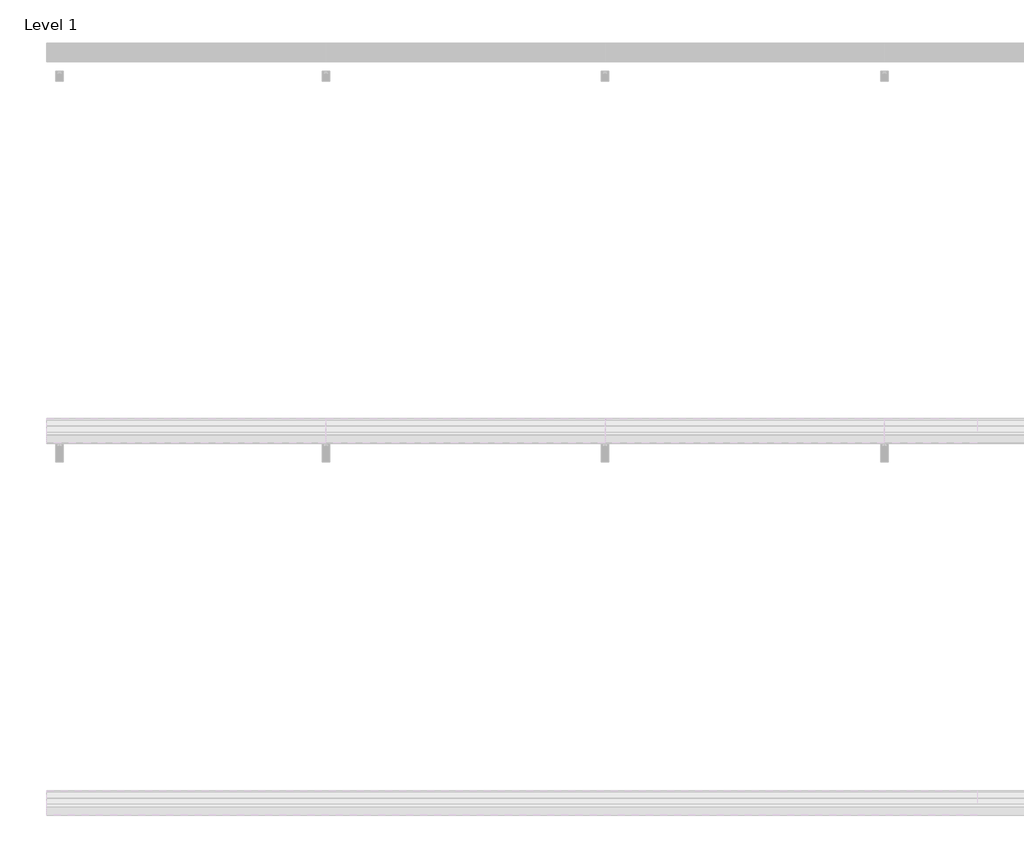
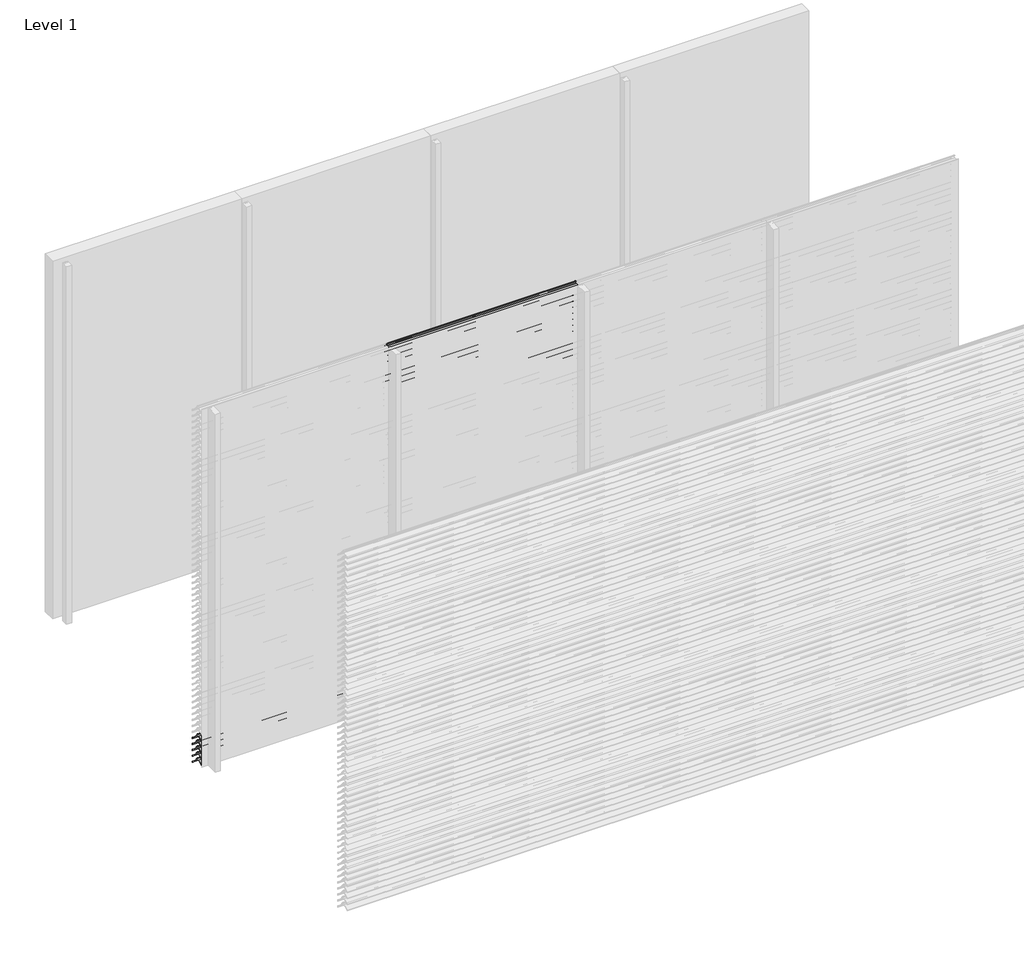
# One storey, part 61 of 173: 18 proxies.
"""IFC4 building model written with IfcOpenShell, lengths in millimetres."""

from ifc_helpers import new_model, si_unit, point, frame, frame_2d, origin, place, context, project, spatial, polyline, circle_curve, trimmed, segment, composite_curve, outline, extrude, element, save

model = new_model("IFC4")

# Units and contexts
model_context = context("Model", 3, world=origin())
ifc_project = project(units=[si_unit("LENGTHUNIT", "METRE", prefix="MILLI")], contexts=[model_context])

# Site, building, storey
site = spatial("IfcSite", under=ifc_project)
building = spatial("IfcBuilding", under=site)
storey = spatial("IfcBuildingStorey", under=building, Name="Level 1", Elevation=0.0)

# Proxies
placement = place(None, origin())
element("IfcBuildingElementProxy", 1, Name="Wall Sweeps", at=placement, inside=storey, context=model_context, shape_type="SweptSolid", body=[
    extrude(outline(composite_curve([segment(polyline([(-35998.0, 209.1474905), (-35998.0, 211.6227417)]), True, "CONTINUOUS"), segment(trimmed(circle_curve(frame_2d((-35951.2682172, 166.2200208)), 65.1557103), [point((-35998.0, 211.6227417))], [point((-35954.4014323, 231.3003524))], False, "CARTESIAN"), True, "CONTINUOUS"), segment(polyline([(-35954.4014323, 231.3003524), (-35934.8315836, 231.3003524)]), True, "CONTINUOUS"), segment(trimmed(circle_curve(frame_2d((-35732.7329489, 378.5533172)), 250.0545817), [point((-35934.8315836, 231.3003524))], [point((-35941.4452143, 240.8344583))], False, "CARTESIAN"), True, "CONTINUOUS"), segment(trimmed(circle_curve(frame_2d((-35953.2981792, 235.1737835)), 13.1352966), [point((-35941.4452143, 240.8344583))], [point((-35953.8171475, 248.298824))], True, "CARTESIAN"), True, "CONTINUOUS"), segment(polyline([(-35953.8171475, 248.298824), (-35953.8171475, 250.0)]), True, "CONTINUOUS"), segment(trimmed(circle_curve(frame_2d((-35953.2981792, 235.1737835)), 14.8352966), [point((-35953.8171475, 250.0))], [point((-35939.9637661, 241.6760487))], False, "CARTESIAN"), True, "CONTINUOUS"), segment(trimmed(circle_curve(frame_2d((-35732.7329489, 378.5533172)), 248.3545817), [point((-35939.9637661, 241.6760487))], [point((-35873.8787895, 174.2059416))], True, "CARTESIAN"), True, "CONTINUOUS"), segment(trimmed(circle_curve(frame_2d((-35883.8147537, 161.6649442)), 16.0), [point((-35873.8787895, 174.2059416))], [point((-35867.8648347, 160.4))], False, "CARTESIAN"), True, "CONTINUOUS"), segment(polyline([(-35867.8648347, 160.4), (-35869.6712069, 160.4)]), True, "CONTINUOUS"), segment(trimmed(circle_curve(frame_2d((-35883.8147537, 161.6649442)), 14.2), [point((-35869.6712069, 160.4))], [point((-35874.9518628, 172.7594998))], True, "CARTESIAN"), True, "CONTINUOUS"), segment(trimmed(circle_curve(frame_2d((-35732.7329489, 378.5533172)), 250.1545817), [point((-35874.9518628, 172.7594998))], [point((-35933.7064024, 229.6003524))], False, "CARTESIAN"), True, "CONTINUOUS"), segment(polyline([(-35933.7064024, 229.6003524), (-35954.3602632, 229.6003524)]), True, "CONTINUOUS"), segment(trimmed(circle_curve(frame_2d((-35951.2682172, 166.2200208)), 63.4557103), [point((-35954.3602632, 229.6003524))], [point((-35998.0, 209.1474905))], True, "CARTESIAN"), True, "CONTINUOUS")], self_intersect=False)), frame((0.0, 0.0, 0.0), z_axis=(1.0, 0.0, 0.0), x_axis=(0.0, 1.0, 0.0)), (0.0, 0.0, 1.0), 1500.0),
])
element("IfcBuildingElementProxy", 2, Name="Wall Sweeps", at=placement, inside=storey, context=model_context, shape_type="SweptSolid", body=[
    extrude(outline(composite_curve([segment(polyline([(-35998.0, 159.1474905), (-35998.0, 161.6227417)]), True, "CONTINUOUS"), segment(trimmed(circle_curve(frame_2d((-35951.2682172, 116.2200208)), 65.1557103), [point((-35998.0, 161.6227417))], [point((-35954.4014323, 181.3003524))], False, "CARTESIAN"), True, "CONTINUOUS"), segment(polyline([(-35954.4014323, 181.3003524), (-35934.8315836, 181.3003524)]), True, "CONTINUOUS"), segment(trimmed(circle_curve(frame_2d((-35732.7329489, 328.5533172)), 250.0545817), [point((-35934.8315836, 181.3003524))], [point((-35941.4452143, 190.8344583))], False, "CARTESIAN"), True, "CONTINUOUS"), segment(trimmed(circle_curve(frame_2d((-35953.2981792, 185.1737835)), 13.1352966), [point((-35941.4452143, 190.8344583))], [point((-35953.8171475, 198.298824))], True, "CARTESIAN"), True, "CONTINUOUS"), segment(polyline([(-35953.8171475, 198.298824), (-35953.8171475, 200.0)]), True, "CONTINUOUS"), segment(trimmed(circle_curve(frame_2d((-35953.2981792, 185.1737835)), 14.8352966), [point((-35953.8171475, 200.0))], [point((-35939.9637661, 191.6760487))], False, "CARTESIAN"), True, "CONTINUOUS"), segment(trimmed(circle_curve(frame_2d((-35732.7329489, 328.5533172)), 248.3545817), [point((-35939.9637661, 191.6760487))], [point((-35873.8787895, 124.2059416))], True, "CARTESIAN"), True, "CONTINUOUS"), segment(trimmed(circle_curve(frame_2d((-35883.8147537, 111.6649442)), 16.0), [point((-35873.8787895, 124.2059416))], [point((-35867.8648347, 110.4))], False, "CARTESIAN"), True, "CONTINUOUS"), segment(polyline([(-35867.8648347, 110.4), (-35869.6712069, 110.4)]), True, "CONTINUOUS"), segment(trimmed(circle_curve(frame_2d((-35883.8147537, 111.6649442)), 14.2), [point((-35869.6712069, 110.4))], [point((-35874.9518628, 122.7594998))], True, "CARTESIAN"), True, "CONTINUOUS"), segment(trimmed(circle_curve(frame_2d((-35732.7329489, 328.5533172)), 250.1545817), [point((-35874.9518628, 122.7594998))], [point((-35933.7064024, 179.6003524))], False, "CARTESIAN"), True, "CONTINUOUS"), segment(polyline([(-35933.7064024, 179.6003524), (-35954.3602632, 179.6003524)]), True, "CONTINUOUS"), segment(trimmed(circle_curve(frame_2d((-35951.2682172, 116.2200208)), 63.4557103), [point((-35954.3602632, 179.6003524))], [point((-35998.0, 159.1474905))], True, "CARTESIAN"), True, "CONTINUOUS")], self_intersect=False)), frame((0.0, 0.0, 0.0), z_axis=(1.0, 0.0, 0.0), x_axis=(0.0, 1.0, 0.0)), (0.0, 0.0, 1.0), 1500.0),
])
element("IfcBuildingElementProxy", 3, Name="Wall Sweeps", at=placement, inside=storey, context=model_context, shape_type="SweptSolid", body=[
    extrude(outline(composite_curve([segment(polyline([(-35998.0, 109.1474905), (-35998.0, 111.6227417)]), True, "CONTINUOUS"), segment(trimmed(circle_curve(frame_2d((-35951.2682172, 66.2200208)), 65.1557103), [point((-35998.0, 111.6227417))], [point((-35954.4014323, 131.3003524))], False, "CARTESIAN"), True, "CONTINUOUS"), segment(polyline([(-35954.4014323, 131.3003524), (-35934.8315836, 131.3003524)]), True, "CONTINUOUS"), segment(trimmed(circle_curve(frame_2d((-35732.7329489, 278.5533172)), 250.0545817), [point((-35934.8315836, 131.3003524))], [point((-35941.4452143, 140.8344583))], False, "CARTESIAN"), True, "CONTINUOUS"), segment(trimmed(circle_curve(frame_2d((-35953.2981792, 135.1737835)), 13.1352966), [point((-35941.4452143, 140.8344583))], [point((-35953.8171475, 148.298824))], True, "CARTESIAN"), True, "CONTINUOUS"), segment(polyline([(-35953.8171475, 148.298824), (-35953.8171475, 150.0)]), True, "CONTINUOUS"), segment(trimmed(circle_curve(frame_2d((-35953.2981792, 135.1737835)), 14.8352966), [point((-35953.8171475, 150.0))], [point((-35939.9637661, 141.6760487))], False, "CARTESIAN"), True, "CONTINUOUS"), segment(trimmed(circle_curve(frame_2d((-35732.7329489, 278.5533172)), 248.3545817), [point((-35939.9637661, 141.6760487))], [point((-35873.8787895, 74.2059416))], True, "CARTESIAN"), True, "CONTINUOUS"), segment(trimmed(circle_curve(frame_2d((-35883.8147537, 61.6649442)), 16.0), [point((-35873.8787895, 74.2059416))], [point((-35867.8648347, 60.4))], False, "CARTESIAN"), True, "CONTINUOUS"), segment(polyline([(-35867.8648347, 60.4), (-35869.6712069, 60.4)]), True, "CONTINUOUS"), segment(trimmed(circle_curve(frame_2d((-35883.8147537, 61.6649442)), 14.2), [point((-35869.6712069, 60.4))], [point((-35874.9518628, 72.7594998))], True, "CARTESIAN"), True, "CONTINUOUS"), segment(trimmed(circle_curve(frame_2d((-35732.7329489, 278.5533172)), 250.1545817), [point((-35874.9518628, 72.7594998))], [point((-35933.7064024, 129.6003524))], False, "CARTESIAN"), True, "CONTINUOUS"), segment(polyline([(-35933.7064024, 129.6003524), (-35954.3602632, 129.6003524)]), True, "CONTINUOUS"), segment(trimmed(circle_curve(frame_2d((-35951.2682172, 66.2200208)), 63.4557103), [point((-35954.3602632, 129.6003524))], [point((-35998.0, 109.1474905))], True, "CARTESIAN"), True, "CONTINUOUS")], self_intersect=False)), frame((0.0, 0.0, 0.0), z_axis=(1.0, 0.0, 0.0), x_axis=(0.0, 1.0, 0.0)), (0.0, 0.0, 1.0), 1500.0),
])
element("IfcBuildingElementProxy", 4, Name="Wall Sweeps", at=placement, inside=storey, context=model_context, shape_type="SweptSolid", body=[
    extrude(outline(composite_curve([segment(polyline([(-35998.0, 59.1474905), (-35998.0, 61.6227417)]), True, "CONTINUOUS"), segment(trimmed(circle_curve(frame_2d((-35951.2682172, 16.2200208)), 65.1557103), [point((-35998.0, 61.6227417))], [point((-35954.4014323, 81.3003524))], False, "CARTESIAN"), True, "CONTINUOUS"), segment(polyline([(-35954.4014323, 81.3003524), (-35934.8315836, 81.3003524)]), True, "CONTINUOUS"), segment(trimmed(circle_curve(frame_2d((-35732.7329489, 228.5533172)), 250.0545817), [point((-35934.8315836, 81.3003524))], [point((-35941.4452143, 90.8344583))], False, "CARTESIAN"), True, "CONTINUOUS"), segment(trimmed(circle_curve(frame_2d((-35953.2981792, 85.1737835)), 13.1352966), [point((-35941.4452143, 90.8344583))], [point((-35953.8171475, 98.298824))], True, "CARTESIAN"), True, "CONTINUOUS"), segment(polyline([(-35953.8171475, 98.298824), (-35953.8171475, 100.0)]), True, "CONTINUOUS"), segment(trimmed(circle_curve(frame_2d((-35953.2981792, 85.1737835)), 14.8352966), [point((-35953.8171475, 100.0))], [point((-35939.9637661, 91.6760487))], False, "CARTESIAN"), True, "CONTINUOUS"), segment(trimmed(circle_curve(frame_2d((-35732.7329489, 228.5533172)), 248.3545817), [point((-35939.9637661, 91.6760487))], [point((-35873.8787895, 24.2059416))], True, "CARTESIAN"), True, "CONTINUOUS"), segment(trimmed(circle_curve(frame_2d((-35883.8147537, 11.6649442)), 16.0), [point((-35873.8787895, 24.2059416))], [point((-35867.8648347, 10.4))], False, "CARTESIAN"), True, "CONTINUOUS"), segment(polyline([(-35867.8648347, 10.4), (-35869.6712069, 10.4)]), True, "CONTINUOUS"), segment(trimmed(circle_curve(frame_2d((-35883.8147537, 11.6649442)), 14.2), [point((-35869.6712069, 10.4))], [point((-35874.9518628, 22.7594998))], True, "CARTESIAN"), True, "CONTINUOUS"), segment(trimmed(circle_curve(frame_2d((-35732.7329489, 228.5533172)), 250.1545817), [point((-35874.9518628, 22.7594998))], [point((-35933.7064024, 79.6003524))], False, "CARTESIAN"), True, "CONTINUOUS"), segment(polyline([(-35933.7064024, 79.6003524), (-35954.3602632, 79.6003524)]), True, "CONTINUOUS"), segment(trimmed(circle_curve(frame_2d((-35951.2682172, 16.2200208)), 63.4557103), [point((-35954.3602632, 79.6003524))], [point((-35998.0, 59.1474905))], True, "CARTESIAN"), True, "CONTINUOUS")], self_intersect=False)), frame((0.0, 0.0, 0.0), z_axis=(1.0, 0.0, 0.0), x_axis=(0.0, 1.0, 0.0)), (0.0, 0.0, 1.0), 1500.0),
])
element("IfcBuildingElementProxy", 5, Name="Wall Sweeps", at=placement, inside=storey, context=model_context, shape_type="SweptSolid", body=[
    extrude(outline(composite_curve([segment(polyline([(-35998.0, 9.1474905), (-35998.0, 11.6227417)]), True, "CONTINUOUS"), segment(trimmed(circle_curve(frame_2d((-35951.2682172, -33.7799792)), 65.1557103), [point((-35998.0, 11.6227417))], [point((-35954.4014323, 31.3003524))], False, "CARTESIAN"), True, "CONTINUOUS"), segment(polyline([(-35954.4014323, 31.3003524), (-35934.8315836, 31.3003524)]), True, "CONTINUOUS"), segment(trimmed(circle_curve(frame_2d((-35732.7329489, 178.5533172)), 250.0545817), [point((-35934.8315836, 31.3003524))], [point((-35941.4452143, 40.8344583))], False, "CARTESIAN"), True, "CONTINUOUS"), segment(trimmed(circle_curve(frame_2d((-35953.2981792, 35.1737835)), 13.1352966), [point((-35941.4452143, 40.8344583))], [point((-35953.8171475, 48.298824))], True, "CARTESIAN"), True, "CONTINUOUS"), segment(polyline([(-35953.8171475, 48.298824), (-35953.8171475, 50.0)]), True, "CONTINUOUS"), segment(trimmed(circle_curve(frame_2d((-35953.2981792, 35.1737835)), 14.8352966), [point((-35953.8171475, 50.0))], [point((-35939.9637661, 41.6760487))], False, "CARTESIAN"), True, "CONTINUOUS"), segment(trimmed(circle_curve(frame_2d((-35732.7329489, 178.5533172)), 248.3545817), [point((-35939.9637661, 41.6760487))], [point((-35873.8787895, -25.7940584))], True, "CARTESIAN"), True, "CONTINUOUS"), segment(trimmed(circle_curve(frame_2d((-35883.8147537, -38.3350558)), 16.0), [point((-35873.8787895, -25.7940584))], [point((-35867.8648347, -39.6))], False, "CARTESIAN"), True, "CONTINUOUS"), segment(polyline([(-35867.8648347, -39.6), (-35869.6712069, -39.6)]), True, "CONTINUOUS"), segment(trimmed(circle_curve(frame_2d((-35883.8147537, -38.3350558)), 14.2), [point((-35869.6712069, -39.6))], [point((-35874.9518628, -27.2405002))], True, "CARTESIAN"), True, "CONTINUOUS"), segment(trimmed(circle_curve(frame_2d((-35732.7329489, 178.5533172)), 250.1545817), [point((-35874.9518628, -27.2405002))], [point((-35933.7064024, 29.6003524))], False, "CARTESIAN"), True, "CONTINUOUS"), segment(polyline([(-35933.7064024, 29.6003524), (-35954.3602632, 29.6003524)]), True, "CONTINUOUS"), segment(trimmed(circle_curve(frame_2d((-35951.2682172, -33.7799792)), 63.4557103), [point((-35954.3602632, 29.6003524))], [point((-35998.0, 9.1474905))], True, "CARTESIAN"), True, "CONTINUOUS")], self_intersect=False)), frame((0.0, 0.0, 0.0), z_axis=(1.0, 0.0, 0.0), x_axis=(0.0, 1.0, 0.0)), (0.0, 0.0, 1.0), 1500.0),
])
element("IfcBuildingElementProxy", 6, Name="Wall Sweeps", at=placement, inside=storey, context=model_context, shape_type="SweptSolid", body=[
    extrude(outline(composite_curve([segment(polyline([(-35998.0, 2959.1474905), (-35998.0, 2961.6227417)]), True, "CONTINUOUS"), segment(trimmed(circle_curve(frame_2d((-35951.2682172, 2916.2200208)), 65.1557103), [point((-35998.0, 2961.6227417))], [point((-35954.4014323, 2981.3003524))], False, "CARTESIAN"), True, "CONTINUOUS"), segment(polyline([(-35954.4014323, 2981.3003524), (-35934.8315836, 2981.3003524)]), True, "CONTINUOUS"), segment(trimmed(circle_curve(frame_2d((-35732.7329489, 3128.5533172)), 250.0545817), [point((-35934.8315836, 2981.3003524))], [point((-35941.4452143, 2990.8344583))], False, "CARTESIAN"), True, "CONTINUOUS"), segment(trimmed(circle_curve(frame_2d((-35953.2981792, 2985.1737835)), 13.1352966), [point((-35941.4452143, 2990.8344583))], [point((-35953.8171475, 2998.298824))], True, "CARTESIAN"), True, "CONTINUOUS"), segment(polyline([(-35953.8171475, 2998.298824), (-35953.8171475, 3000.0)]), True, "CONTINUOUS"), segment(trimmed(circle_curve(frame_2d((-35953.2981792, 2985.1737835)), 14.8352966), [point((-35953.8171475, 3000.0))], [point((-35939.9637661, 2991.6760487))], False, "CARTESIAN"), True, "CONTINUOUS"), segment(trimmed(circle_curve(frame_2d((-35732.7329489, 3128.5533172)), 248.3545817), [point((-35939.9637661, 2991.6760487))], [point((-35873.8787895, 2924.2059416))], True, "CARTESIAN"), True, "CONTINUOUS"), segment(trimmed(circle_curve(frame_2d((-35883.8147537, 2911.6649442)), 16.0), [point((-35873.8787895, 2924.2059416))], [point((-35867.8648347, 2910.4))], False, "CARTESIAN"), True, "CONTINUOUS"), segment(polyline([(-35867.8648347, 2910.4), (-35869.6712069, 2910.4)]), True, "CONTINUOUS"), segment(trimmed(circle_curve(frame_2d((-35883.8147537, 2911.6649442)), 14.2), [point((-35869.6712069, 2910.4))], [point((-35874.9518628, 2922.7594998))], True, "CARTESIAN"), True, "CONTINUOUS"), segment(trimmed(circle_curve(frame_2d((-35732.7329489, 3128.5533172)), 250.1545817), [point((-35874.9518628, 2922.7594998))], [point((-35933.7064024, 2979.6003524))], False, "CARTESIAN"), True, "CONTINUOUS"), segment(polyline([(-35933.7064024, 2979.6003524), (-35954.3602632, 2979.6003524)]), True, "CONTINUOUS"), segment(trimmed(circle_curve(frame_2d((-35951.2682172, 2916.2200208)), 63.4557103), [point((-35954.3602632, 2979.6003524))], [point((-35998.0, 2959.1474905))], True, "CARTESIAN"), True, "CONTINUOUS")], self_intersect=False)), frame((1500.0, 0.0, 0.0), z_axis=(1.0, 0.0, 0.0), x_axis=(0.0, 1.0, 0.0)), (0.0, 0.0, 1.0), 1500.0),
])
element("IfcBuildingElementProxy", 7, Name="Wall Sweeps", at=placement, inside=storey, context=model_context, shape_type="SweptSolid", body=[
    extrude(outline(composite_curve([segment(polyline([(-35998.0, 2909.1474905), (-35998.0, 2911.6227417)]), True, "CONTINUOUS"), segment(trimmed(circle_curve(frame_2d((-35951.2682172, 2866.2200208)), 65.1557103), [point((-35998.0, 2911.6227417))], [point((-35954.4014323, 2931.3003524))], False, "CARTESIAN"), True, "CONTINUOUS"), segment(polyline([(-35954.4014323, 2931.3003524), (-35934.8315836, 2931.3003524)]), True, "CONTINUOUS"), segment(trimmed(circle_curve(frame_2d((-35732.7329489, 3078.5533172)), 250.0545817), [point((-35934.8315836, 2931.3003524))], [point((-35941.4452143, 2940.8344583))], False, "CARTESIAN"), True, "CONTINUOUS"), segment(trimmed(circle_curve(frame_2d((-35953.2981792, 2935.1737835)), 13.1352966), [point((-35941.4452143, 2940.8344583))], [point((-35953.8171475, 2948.298824))], True, "CARTESIAN"), True, "CONTINUOUS"), segment(polyline([(-35953.8171475, 2948.298824), (-35953.8171475, 2950.0)]), True, "CONTINUOUS"), segment(trimmed(circle_curve(frame_2d((-35953.2981792, 2935.1737835)), 14.8352966), [point((-35953.8171475, 2950.0))], [point((-35939.9637661, 2941.6760487))], False, "CARTESIAN"), True, "CONTINUOUS"), segment(trimmed(circle_curve(frame_2d((-35732.7329489, 3078.5533172)), 248.3545817), [point((-35939.9637661, 2941.6760487))], [point((-35873.8787895, 2874.2059416))], True, "CARTESIAN"), True, "CONTINUOUS"), segment(trimmed(circle_curve(frame_2d((-35883.8147537, 2861.6649442)), 16.0), [point((-35873.8787895, 2874.2059416))], [point((-35867.8648347, 2860.4))], False, "CARTESIAN"), True, "CONTINUOUS"), segment(polyline([(-35867.8648347, 2860.4), (-35869.6712069, 2860.4)]), True, "CONTINUOUS"), segment(trimmed(circle_curve(frame_2d((-35883.8147537, 2861.6649442)), 14.2), [point((-35869.6712069, 2860.4))], [point((-35874.9518628, 2872.7594998))], True, "CARTESIAN"), True, "CONTINUOUS"), segment(trimmed(circle_curve(frame_2d((-35732.7329489, 3078.5533172)), 250.1545817), [point((-35874.9518628, 2872.7594998))], [point((-35933.7064024, 2929.6003524))], False, "CARTESIAN"), True, "CONTINUOUS"), segment(polyline([(-35933.7064024, 2929.6003524), (-35954.3602632, 2929.6003524)]), True, "CONTINUOUS"), segment(trimmed(circle_curve(frame_2d((-35951.2682172, 2866.2200208)), 63.4557103), [point((-35954.3602632, 2929.6003524))], [point((-35998.0, 2909.1474905))], True, "CARTESIAN"), True, "CONTINUOUS")], self_intersect=False)), frame((1500.0, 0.0, 0.0), z_axis=(1.0, 0.0, 0.0), x_axis=(0.0, 1.0, 0.0)), (0.0, 0.0, 1.0), 1500.0),
])
element("IfcBuildingElementProxy", 8, Name="Wall Sweeps", at=placement, inside=storey, context=model_context, shape_type="SweptSolid", body=[
    extrude(outline(composite_curve([segment(polyline([(-35998.0, 2859.1474905), (-35998.0, 2861.6227417)]), True, "CONTINUOUS"), segment(trimmed(circle_curve(frame_2d((-35951.2682172, 2816.2200208)), 65.1557103), [point((-35998.0, 2861.6227417))], [point((-35954.4014323, 2881.3003524))], False, "CARTESIAN"), True, "CONTINUOUS"), segment(polyline([(-35954.4014323, 2881.3003524), (-35934.8315836, 2881.3003524)]), True, "CONTINUOUS"), segment(trimmed(circle_curve(frame_2d((-35732.7329489, 3028.5533172)), 250.0545817), [point((-35934.8315836, 2881.3003524))], [point((-35941.4452143, 2890.8344583))], False, "CARTESIAN"), True, "CONTINUOUS"), segment(trimmed(circle_curve(frame_2d((-35953.2981792, 2885.1737835)), 13.1352966), [point((-35941.4452143, 2890.8344583))], [point((-35953.8171475, 2898.298824))], True, "CARTESIAN"), True, "CONTINUOUS"), segment(polyline([(-35953.8171475, 2898.298824), (-35953.8171475, 2900.0)]), True, "CONTINUOUS"), segment(trimmed(circle_curve(frame_2d((-35953.2981792, 2885.1737835)), 14.8352966), [point((-35953.8171475, 2900.0))], [point((-35939.9637661, 2891.6760487))], False, "CARTESIAN"), True, "CONTINUOUS"), segment(trimmed(circle_curve(frame_2d((-35732.7329489, 3028.5533172)), 248.3545817), [point((-35939.9637661, 2891.6760487))], [point((-35873.8787895, 2824.2059416))], True, "CARTESIAN"), True, "CONTINUOUS"), segment(trimmed(circle_curve(frame_2d((-35883.8147537, 2811.6649442)), 16.0), [point((-35873.8787895, 2824.2059416))], [point((-35867.8648347, 2810.4))], False, "CARTESIAN"), True, "CONTINUOUS"), segment(polyline([(-35867.8648347, 2810.4), (-35869.6712069, 2810.4)]), True, "CONTINUOUS"), segment(trimmed(circle_curve(frame_2d((-35883.8147537, 2811.6649442)), 14.2), [point((-35869.6712069, 2810.4))], [point((-35874.9518628, 2822.7594998))], True, "CARTESIAN"), True, "CONTINUOUS"), segment(trimmed(circle_curve(frame_2d((-35732.7329489, 3028.5533172)), 250.1545817), [point((-35874.9518628, 2822.7594998))], [point((-35933.7064024, 2879.6003524))], False, "CARTESIAN"), True, "CONTINUOUS"), segment(polyline([(-35933.7064024, 2879.6003524), (-35954.3602632, 2879.6003524)]), True, "CONTINUOUS"), segment(trimmed(circle_curve(frame_2d((-35951.2682172, 2816.2200208)), 63.4557103), [point((-35954.3602632, 2879.6003524))], [point((-35998.0, 2859.1474905))], True, "CARTESIAN"), True, "CONTINUOUS")], self_intersect=False)), frame((1500.0, 0.0, 0.0), z_axis=(1.0, 0.0, 0.0), x_axis=(0.0, 1.0, 0.0)), (0.0, 0.0, 1.0), 1500.0),
])
element("IfcBuildingElementProxy", 9, Name="Wall Sweeps", at=placement, inside=storey, context=model_context, shape_type="SweptSolid", body=[
    extrude(outline(composite_curve([segment(polyline([(-35998.0, 2809.1474905), (-35998.0, 2811.6227417)]), True, "CONTINUOUS"), segment(trimmed(circle_curve(frame_2d((-35951.2682172, 2766.2200208)), 65.1557103), [point((-35998.0, 2811.6227417))], [point((-35954.4014323, 2831.3003524))], False, "CARTESIAN"), True, "CONTINUOUS"), segment(polyline([(-35954.4014323, 2831.3003524), (-35934.8315836, 2831.3003524)]), True, "CONTINUOUS"), segment(trimmed(circle_curve(frame_2d((-35732.7329489, 2978.5533172)), 250.0545817), [point((-35934.8315836, 2831.3003524))], [point((-35941.4452143, 2840.8344583))], False, "CARTESIAN"), True, "CONTINUOUS"), segment(trimmed(circle_curve(frame_2d((-35953.2981792, 2835.1737835)), 13.1352966), [point((-35941.4452143, 2840.8344583))], [point((-35953.8171475, 2848.298824))], True, "CARTESIAN"), True, "CONTINUOUS"), segment(polyline([(-35953.8171475, 2848.298824), (-35953.8171475, 2850.0)]), True, "CONTINUOUS"), segment(trimmed(circle_curve(frame_2d((-35953.2981792, 2835.1737835)), 14.8352966), [point((-35953.8171475, 2850.0))], [point((-35939.9637661, 2841.6760487))], False, "CARTESIAN"), True, "CONTINUOUS"), segment(trimmed(circle_curve(frame_2d((-35732.7329489, 2978.5533172)), 248.3545817), [point((-35939.9637661, 2841.6760487))], [point((-35873.8787895, 2774.2059416))], True, "CARTESIAN"), True, "CONTINUOUS"), segment(trimmed(circle_curve(frame_2d((-35883.8147537, 2761.6649442)), 16.0), [point((-35873.8787895, 2774.2059416))], [point((-35867.8648347, 2760.4))], False, "CARTESIAN"), True, "CONTINUOUS"), segment(polyline([(-35867.8648347, 2760.4), (-35869.6712069, 2760.4)]), True, "CONTINUOUS"), segment(trimmed(circle_curve(frame_2d((-35883.8147537, 2761.6649442)), 14.2), [point((-35869.6712069, 2760.4))], [point((-35874.9518628, 2772.7594998))], True, "CARTESIAN"), True, "CONTINUOUS"), segment(trimmed(circle_curve(frame_2d((-35732.7329489, 2978.5533172)), 250.1545817), [point((-35874.9518628, 2772.7594998))], [point((-35933.7064024, 2829.6003524))], False, "CARTESIAN"), True, "CONTINUOUS"), segment(polyline([(-35933.7064024, 2829.6003524), (-35954.3602632, 2829.6003524)]), True, "CONTINUOUS"), segment(trimmed(circle_curve(frame_2d((-35951.2682172, 2766.2200208)), 63.4557103), [point((-35954.3602632, 2829.6003524))], [point((-35998.0, 2809.1474905))], True, "CARTESIAN"), True, "CONTINUOUS")], self_intersect=False)), frame((1500.0, 0.0, 0.0), z_axis=(1.0, 0.0, 0.0), x_axis=(0.0, 1.0, 0.0)), (0.0, 0.0, 1.0), 1500.0),
])
element("IfcBuildingElementProxy", 10, Name="Wall Sweeps", at=placement, inside=storey, context=model_context, shape_type="SweptSolid", body=[
    extrude(outline(composite_curve([segment(polyline([(-35998.0, 2759.1474905), (-35998.0, 2761.6227417)]), True, "CONTINUOUS"), segment(trimmed(circle_curve(frame_2d((-35951.2682172, 2716.2200208)), 65.1557103), [point((-35998.0, 2761.6227417))], [point((-35954.4014323, 2781.3003524))], False, "CARTESIAN"), True, "CONTINUOUS"), segment(polyline([(-35954.4014323, 2781.3003524), (-35934.8315836, 2781.3003524)]), True, "CONTINUOUS"), segment(trimmed(circle_curve(frame_2d((-35732.7329489, 2928.5533172)), 250.0545817), [point((-35934.8315836, 2781.3003524))], [point((-35941.4452143, 2790.8344583))], False, "CARTESIAN"), True, "CONTINUOUS"), segment(trimmed(circle_curve(frame_2d((-35953.2981792, 2785.1737835)), 13.1352966), [point((-35941.4452143, 2790.8344583))], [point((-35953.8171475, 2798.298824))], True, "CARTESIAN"), True, "CONTINUOUS"), segment(polyline([(-35953.8171475, 2798.298824), (-35953.8171475, 2800.0)]), True, "CONTINUOUS"), segment(trimmed(circle_curve(frame_2d((-35953.2981792, 2785.1737835)), 14.8352966), [point((-35953.8171475, 2800.0))], [point((-35939.9637661, 2791.6760487))], False, "CARTESIAN"), True, "CONTINUOUS"), segment(trimmed(circle_curve(frame_2d((-35732.7329489, 2928.5533172)), 248.3545817), [point((-35939.9637661, 2791.6760487))], [point((-35873.8787895, 2724.2059416))], True, "CARTESIAN"), True, "CONTINUOUS"), segment(trimmed(circle_curve(frame_2d((-35883.8147537, 2711.6649442)), 16.0), [point((-35873.8787895, 2724.2059416))], [point((-35867.8648347, 2710.4))], False, "CARTESIAN"), True, "CONTINUOUS"), segment(polyline([(-35867.8648347, 2710.4), (-35869.6712069, 2710.4)]), True, "CONTINUOUS"), segment(trimmed(circle_curve(frame_2d((-35883.8147537, 2711.6649442)), 14.2), [point((-35869.6712069, 2710.4))], [point((-35874.9518628, 2722.7594998))], True, "CARTESIAN"), True, "CONTINUOUS"), segment(trimmed(circle_curve(frame_2d((-35732.7329489, 2928.5533172)), 250.1545817), [point((-35874.9518628, 2722.7594998))], [point((-35933.7064024, 2779.6003524))], False, "CARTESIAN"), True, "CONTINUOUS"), segment(polyline([(-35933.7064024, 2779.6003524), (-35954.3602632, 2779.6003524)]), True, "CONTINUOUS"), segment(trimmed(circle_curve(frame_2d((-35951.2682172, 2716.2200208)), 63.4557103), [point((-35954.3602632, 2779.6003524))], [point((-35998.0, 2759.1474905))], True, "CARTESIAN"), True, "CONTINUOUS")], self_intersect=False)), frame((1500.0, 0.0, 0.0), z_axis=(1.0, 0.0, 0.0), x_axis=(0.0, 1.0, 0.0)), (0.0, 0.0, 1.0), 1500.0),
])
element("IfcBuildingElementProxy", 11, Name="Wall Sweeps", at=placement, inside=storey, context=model_context, shape_type="SweptSolid", body=[
    extrude(outline(composite_curve([segment(polyline([(-35998.0, 2709.1474905), (-35998.0, 2711.6227417)]), True, "CONTINUOUS"), segment(trimmed(circle_curve(frame_2d((-35951.2682172, 2666.2200208)), 65.1557103), [point((-35998.0, 2711.6227417))], [point((-35954.4014323, 2731.3003524))], False, "CARTESIAN"), True, "CONTINUOUS"), segment(polyline([(-35954.4014323, 2731.3003524), (-35934.8315836, 2731.3003524)]), True, "CONTINUOUS"), segment(trimmed(circle_curve(frame_2d((-35732.7329489, 2878.5533172)), 250.0545817), [point((-35934.8315836, 2731.3003524))], [point((-35941.4452143, 2740.8344583))], False, "CARTESIAN"), True, "CONTINUOUS"), segment(trimmed(circle_curve(frame_2d((-35953.2981792, 2735.1737835)), 13.1352966), [point((-35941.4452143, 2740.8344583))], [point((-35953.8171475, 2748.298824))], True, "CARTESIAN"), True, "CONTINUOUS"), segment(polyline([(-35953.8171475, 2748.298824), (-35953.8171475, 2750.0)]), True, "CONTINUOUS"), segment(trimmed(circle_curve(frame_2d((-35953.2981792, 2735.1737835)), 14.8352966), [point((-35953.8171475, 2750.0))], [point((-35939.9637661, 2741.6760487))], False, "CARTESIAN"), True, "CONTINUOUS"), segment(trimmed(circle_curve(frame_2d((-35732.7329489, 2878.5533172)), 248.3545817), [point((-35939.9637661, 2741.6760487))], [point((-35873.8787895, 2674.2059416))], True, "CARTESIAN"), True, "CONTINUOUS"), segment(trimmed(circle_curve(frame_2d((-35883.8147537, 2661.6649442)), 16.0), [point((-35873.8787895, 2674.2059416))], [point((-35867.8648347, 2660.4))], False, "CARTESIAN"), True, "CONTINUOUS"), segment(polyline([(-35867.8648347, 2660.4), (-35869.6712069, 2660.4)]), True, "CONTINUOUS"), segment(trimmed(circle_curve(frame_2d((-35883.8147537, 2661.6649442)), 14.2), [point((-35869.6712069, 2660.4))], [point((-35874.9518628, 2672.7594998))], True, "CARTESIAN"), True, "CONTINUOUS"), segment(trimmed(circle_curve(frame_2d((-35732.7329489, 2878.5533172)), 250.1545817), [point((-35874.9518628, 2672.7594998))], [point((-35933.7064024, 2729.6003524))], False, "CARTESIAN"), True, "CONTINUOUS"), segment(polyline([(-35933.7064024, 2729.6003524), (-35954.3602632, 2729.6003524)]), True, "CONTINUOUS"), segment(trimmed(circle_curve(frame_2d((-35951.2682172, 2666.2200208)), 63.4557103), [point((-35954.3602632, 2729.6003524))], [point((-35998.0, 2709.1474905))], True, "CARTESIAN"), True, "CONTINUOUS")], self_intersect=False)), frame((1500.0, 0.0, 0.0), z_axis=(1.0, 0.0, 0.0), x_axis=(0.0, 1.0, 0.0)), (0.0, 0.0, 1.0), 1500.0),
])
element("IfcBuildingElementProxy", 12, Name="Wall Sweeps", at=placement, inside=storey, context=model_context, shape_type="SweptSolid", body=[
    extrude(outline(composite_curve([segment(polyline([(-35998.0, 2659.1474905), (-35998.0, 2661.6227417)]), True, "CONTINUOUS"), segment(trimmed(circle_curve(frame_2d((-35951.2682172, 2616.2200208)), 65.1557103), [point((-35998.0, 2661.6227417))], [point((-35954.4014323, 2681.3003524))], False, "CARTESIAN"), True, "CONTINUOUS"), segment(polyline([(-35954.4014323, 2681.3003524), (-35934.8315836, 2681.3003524)]), True, "CONTINUOUS"), segment(trimmed(circle_curve(frame_2d((-35732.7329489, 2828.5533172)), 250.0545817), [point((-35934.8315836, 2681.3003524))], [point((-35941.4452143, 2690.8344583))], False, "CARTESIAN"), True, "CONTINUOUS"), segment(trimmed(circle_curve(frame_2d((-35953.2981792, 2685.1737835)), 13.1352966), [point((-35941.4452143, 2690.8344583))], [point((-35953.8171475, 2698.298824))], True, "CARTESIAN"), True, "CONTINUOUS"), segment(polyline([(-35953.8171475, 2698.298824), (-35953.8171475, 2700.0)]), True, "CONTINUOUS"), segment(trimmed(circle_curve(frame_2d((-35953.2981792, 2685.1737835)), 14.8352966), [point((-35953.8171475, 2700.0))], [point((-35939.9637661, 2691.6760487))], False, "CARTESIAN"), True, "CONTINUOUS"), segment(trimmed(circle_curve(frame_2d((-35732.7329489, 2828.5533172)), 248.3545817), [point((-35939.9637661, 2691.6760487))], [point((-35873.8787895, 2624.2059416))], True, "CARTESIAN"), True, "CONTINUOUS"), segment(trimmed(circle_curve(frame_2d((-35883.8147537, 2611.6649442)), 16.0), [point((-35873.8787895, 2624.2059416))], [point((-35867.8648347, 2610.4))], False, "CARTESIAN"), True, "CONTINUOUS"), segment(polyline([(-35867.8648347, 2610.4), (-35869.6712069, 2610.4)]), True, "CONTINUOUS"), segment(trimmed(circle_curve(frame_2d((-35883.8147537, 2611.6649442)), 14.2), [point((-35869.6712069, 2610.4))], [point((-35874.9518628, 2622.7594998))], True, "CARTESIAN"), True, "CONTINUOUS"), segment(trimmed(circle_curve(frame_2d((-35732.7329489, 2828.5533172)), 250.1545817), [point((-35874.9518628, 2622.7594998))], [point((-35933.7064024, 2679.6003524))], False, "CARTESIAN"), True, "CONTINUOUS"), segment(polyline([(-35933.7064024, 2679.6003524), (-35954.3602632, 2679.6003524)]), True, "CONTINUOUS"), segment(trimmed(circle_curve(frame_2d((-35951.2682172, 2616.2200208)), 63.4557103), [point((-35954.3602632, 2679.6003524))], [point((-35998.0, 2659.1474905))], True, "CARTESIAN"), True, "CONTINUOUS")], self_intersect=False)), frame((1500.0, 0.0, 0.0), z_axis=(1.0, 0.0, 0.0), x_axis=(0.0, 1.0, 0.0)), (0.0, 0.0, 1.0), 1500.0),
])
element("IfcBuildingElementProxy", 13, Name="Wall Sweeps", at=placement, inside=storey, context=model_context, shape_type="SweptSolid", body=[
    extrude(outline(composite_curve([segment(polyline([(-35998.0, 2609.1474905), (-35998.0, 2611.6227417)]), True, "CONTINUOUS"), segment(trimmed(circle_curve(frame_2d((-35951.2682172, 2566.2200208)), 65.1557103), [point((-35998.0, 2611.6227417))], [point((-35954.4014323, 2631.3003524))], False, "CARTESIAN"), True, "CONTINUOUS"), segment(polyline([(-35954.4014323, 2631.3003524), (-35934.8315836, 2631.3003524)]), True, "CONTINUOUS"), segment(trimmed(circle_curve(frame_2d((-35732.7329489, 2778.5533172)), 250.0545817), [point((-35934.8315836, 2631.3003524))], [point((-35941.4452143, 2640.8344583))], False, "CARTESIAN"), True, "CONTINUOUS"), segment(trimmed(circle_curve(frame_2d((-35953.2981792, 2635.1737835)), 13.1352966), [point((-35941.4452143, 2640.8344583))], [point((-35953.8171475, 2648.298824))], True, "CARTESIAN"), True, "CONTINUOUS"), segment(polyline([(-35953.8171475, 2648.298824), (-35953.8171475, 2650.0)]), True, "CONTINUOUS"), segment(trimmed(circle_curve(frame_2d((-35953.2981792, 2635.1737835)), 14.8352966), [point((-35953.8171475, 2650.0))], [point((-35939.9637661, 2641.6760487))], False, "CARTESIAN"), True, "CONTINUOUS"), segment(trimmed(circle_curve(frame_2d((-35732.7329489, 2778.5533172)), 248.3545817), [point((-35939.9637661, 2641.6760487))], [point((-35873.8787895, 2574.2059416))], True, "CARTESIAN"), True, "CONTINUOUS"), segment(trimmed(circle_curve(frame_2d((-35883.8147537, 2561.6649442)), 16.0), [point((-35873.8787895, 2574.2059416))], [point((-35867.8648347, 2560.4))], False, "CARTESIAN"), True, "CONTINUOUS"), segment(polyline([(-35867.8648347, 2560.4), (-35869.6712069, 2560.4)]), True, "CONTINUOUS"), segment(trimmed(circle_curve(frame_2d((-35883.8147537, 2561.6649442)), 14.2), [point((-35869.6712069, 2560.4))], [point((-35874.9518628, 2572.7594998))], True, "CARTESIAN"), True, "CONTINUOUS"), segment(trimmed(circle_curve(frame_2d((-35732.7329489, 2778.5533172)), 250.1545817), [point((-35874.9518628, 2572.7594998))], [point((-35933.7064024, 2629.6003524))], False, "CARTESIAN"), True, "CONTINUOUS"), segment(polyline([(-35933.7064024, 2629.6003524), (-35954.3602632, 2629.6003524)]), True, "CONTINUOUS"), segment(trimmed(circle_curve(frame_2d((-35951.2682172, 2566.2200208)), 63.4557103), [point((-35954.3602632, 2629.6003524))], [point((-35998.0, 2609.1474905))], True, "CARTESIAN"), True, "CONTINUOUS")], self_intersect=False)), frame((1500.0, 0.0, 0.0), z_axis=(1.0, 0.0, 0.0), x_axis=(0.0, 1.0, 0.0)), (0.0, 0.0, 1.0), 1500.0),
])
element("IfcBuildingElementProxy", 14, Name="Wall Sweeps", at=placement, inside=storey, context=model_context, shape_type="SweptSolid", body=[
    extrude(outline(composite_curve([segment(polyline([(-35998.0, 2559.1474905), (-35998.0, 2561.6227417)]), True, "CONTINUOUS"), segment(trimmed(circle_curve(frame_2d((-35951.2682172, 2516.2200208)), 65.1557103), [point((-35998.0, 2561.6227417))], [point((-35954.4014323, 2581.3003524))], False, "CARTESIAN"), True, "CONTINUOUS"), segment(polyline([(-35954.4014323, 2581.3003524), (-35934.8315836, 2581.3003524)]), True, "CONTINUOUS"), segment(trimmed(circle_curve(frame_2d((-35732.7329489, 2728.5533172)), 250.0545817), [point((-35934.8315836, 2581.3003524))], [point((-35941.4452143, 2590.8344583))], False, "CARTESIAN"), True, "CONTINUOUS"), segment(trimmed(circle_curve(frame_2d((-35953.2981792, 2585.1737835)), 13.1352966), [point((-35941.4452143, 2590.8344583))], [point((-35953.8171475, 2598.298824))], True, "CARTESIAN"), True, "CONTINUOUS"), segment(polyline([(-35953.8171475, 2598.298824), (-35953.8171475, 2600.0)]), True, "CONTINUOUS"), segment(trimmed(circle_curve(frame_2d((-35953.2981792, 2585.1737835)), 14.8352966), [point((-35953.8171475, 2600.0))], [point((-35939.9637661, 2591.6760487))], False, "CARTESIAN"), True, "CONTINUOUS"), segment(trimmed(circle_curve(frame_2d((-35732.7329489, 2728.5533172)), 248.3545817), [point((-35939.9637661, 2591.6760487))], [point((-35873.8787895, 2524.2059416))], True, "CARTESIAN"), True, "CONTINUOUS"), segment(trimmed(circle_curve(frame_2d((-35883.8147537, 2511.6649442)), 16.0), [point((-35873.8787895, 2524.2059416))], [point((-35867.8648347, 2510.4))], False, "CARTESIAN"), True, "CONTINUOUS"), segment(polyline([(-35867.8648347, 2510.4), (-35869.6712069, 2510.4)]), True, "CONTINUOUS"), segment(trimmed(circle_curve(frame_2d((-35883.8147537, 2511.6649442)), 14.2), [point((-35869.6712069, 2510.4))], [point((-35874.9518628, 2522.7594998))], True, "CARTESIAN"), True, "CONTINUOUS"), segment(trimmed(circle_curve(frame_2d((-35732.7329489, 2728.5533172)), 250.1545817), [point((-35874.9518628, 2522.7594998))], [point((-35933.7064024, 2579.6003524))], False, "CARTESIAN"), True, "CONTINUOUS"), segment(polyline([(-35933.7064024, 2579.6003524), (-35954.3602632, 2579.6003524)]), True, "CONTINUOUS"), segment(trimmed(circle_curve(frame_2d((-35951.2682172, 2516.2200208)), 63.4557103), [point((-35954.3602632, 2579.6003524))], [point((-35998.0, 2559.1474905))], True, "CARTESIAN"), True, "CONTINUOUS")], self_intersect=False)), frame((1500.0, 0.0, 0.0), z_axis=(1.0, 0.0, 0.0), x_axis=(0.0, 1.0, 0.0)), (0.0, 0.0, 1.0), 1500.0),
])
element("IfcBuildingElementProxy", 15, Name="Wall Sweeps", at=placement, inside=storey, context=model_context, shape_type="SweptSolid", body=[
    extrude(outline(composite_curve([segment(polyline([(-35998.0, 2509.1474905), (-35998.0, 2511.6227417)]), True, "CONTINUOUS"), segment(trimmed(circle_curve(frame_2d((-35951.2682172, 2466.2200208)), 65.1557103), [point((-35998.0, 2511.6227417))], [point((-35954.4014323, 2531.3003524))], False, "CARTESIAN"), True, "CONTINUOUS"), segment(polyline([(-35954.4014323, 2531.3003524), (-35934.8315836, 2531.3003524)]), True, "CONTINUOUS"), segment(trimmed(circle_curve(frame_2d((-35732.7329489, 2678.5533172)), 250.0545817), [point((-35934.8315836, 2531.3003524))], [point((-35941.4452143, 2540.8344583))], False, "CARTESIAN"), True, "CONTINUOUS"), segment(trimmed(circle_curve(frame_2d((-35953.2981792, 2535.1737835)), 13.1352966), [point((-35941.4452143, 2540.8344583))], [point((-35953.8171475, 2548.298824))], True, "CARTESIAN"), True, "CONTINUOUS"), segment(polyline([(-35953.8171475, 2548.298824), (-35953.8171475, 2550.0)]), True, "CONTINUOUS"), segment(trimmed(circle_curve(frame_2d((-35953.2981792, 2535.1737835)), 14.8352966), [point((-35953.8171475, 2550.0))], [point((-35939.9637661, 2541.6760487))], False, "CARTESIAN"), True, "CONTINUOUS"), segment(trimmed(circle_curve(frame_2d((-35732.7329489, 2678.5533172)), 248.3545817), [point((-35939.9637661, 2541.6760487))], [point((-35873.8787895, 2474.2059416))], True, "CARTESIAN"), True, "CONTINUOUS"), segment(trimmed(circle_curve(frame_2d((-35883.8147537, 2461.6649442)), 16.0), [point((-35873.8787895, 2474.2059416))], [point((-35867.8648347, 2460.4))], False, "CARTESIAN"), True, "CONTINUOUS"), segment(polyline([(-35867.8648347, 2460.4), (-35869.6712069, 2460.4)]), True, "CONTINUOUS"), segment(trimmed(circle_curve(frame_2d((-35883.8147537, 2461.6649442)), 14.2), [point((-35869.6712069, 2460.4))], [point((-35874.9518628, 2472.7594998))], True, "CARTESIAN"), True, "CONTINUOUS"), segment(trimmed(circle_curve(frame_2d((-35732.7329489, 2678.5533172)), 250.1545817), [point((-35874.9518628, 2472.7594998))], [point((-35933.7064024, 2529.6003524))], False, "CARTESIAN"), True, "CONTINUOUS"), segment(polyline([(-35933.7064024, 2529.6003524), (-35954.3602632, 2529.6003524)]), True, "CONTINUOUS"), segment(trimmed(circle_curve(frame_2d((-35951.2682172, 2466.2200208)), 63.4557103), [point((-35954.3602632, 2529.6003524))], [point((-35998.0, 2509.1474905))], True, "CARTESIAN"), True, "CONTINUOUS")], self_intersect=False)), frame((1500.0, 0.0, 0.0), z_axis=(1.0, 0.0, 0.0), x_axis=(0.0, 1.0, 0.0)), (0.0, 0.0, 1.0), 1500.0),
])
element("IfcBuildingElementProxy", 16, Name="Wall Sweeps", at=placement, inside=storey, context=model_context, shape_type="SweptSolid", body=[
    extrude(outline(composite_curve([segment(polyline([(-35998.0, 2459.1474905), (-35998.0, 2461.6227417)]), True, "CONTINUOUS"), segment(trimmed(circle_curve(frame_2d((-35951.2682172, 2416.2200208)), 65.1557103), [point((-35998.0, 2461.6227417))], [point((-35954.4014323, 2481.3003524))], False, "CARTESIAN"), True, "CONTINUOUS"), segment(polyline([(-35954.4014323, 2481.3003524), (-35934.8315836, 2481.3003524)]), True, "CONTINUOUS"), segment(trimmed(circle_curve(frame_2d((-35732.7329489, 2628.5533172)), 250.0545817), [point((-35934.8315836, 2481.3003524))], [point((-35941.4452143, 2490.8344583))], False, "CARTESIAN"), True, "CONTINUOUS"), segment(trimmed(circle_curve(frame_2d((-35953.2981792, 2485.1737835)), 13.1352966), [point((-35941.4452143, 2490.8344583))], [point((-35953.8171475, 2498.298824))], True, "CARTESIAN"), True, "CONTINUOUS"), segment(polyline([(-35953.8171475, 2498.298824), (-35953.8171475, 2500.0)]), True, "CONTINUOUS"), segment(trimmed(circle_curve(frame_2d((-35953.2981792, 2485.1737835)), 14.8352966), [point((-35953.8171475, 2500.0))], [point((-35939.9637661, 2491.6760487))], False, "CARTESIAN"), True, "CONTINUOUS"), segment(trimmed(circle_curve(frame_2d((-35732.7329489, 2628.5533172)), 248.3545817), [point((-35939.9637661, 2491.6760487))], [point((-35873.8787895, 2424.2059416))], True, "CARTESIAN"), True, "CONTINUOUS"), segment(trimmed(circle_curve(frame_2d((-35883.8147537, 2411.6649442)), 16.0), [point((-35873.8787895, 2424.2059416))], [point((-35867.8648347, 2410.4))], False, "CARTESIAN"), True, "CONTINUOUS"), segment(polyline([(-35867.8648347, 2410.4), (-35869.6712069, 2410.4)]), True, "CONTINUOUS"), segment(trimmed(circle_curve(frame_2d((-35883.8147537, 2411.6649442)), 14.2), [point((-35869.6712069, 2410.4))], [point((-35874.9518628, 2422.7594998))], True, "CARTESIAN"), True, "CONTINUOUS"), segment(trimmed(circle_curve(frame_2d((-35732.7329489, 2628.5533172)), 250.1545817), [point((-35874.9518628, 2422.7594998))], [point((-35933.7064024, 2479.6003524))], False, "CARTESIAN"), True, "CONTINUOUS"), segment(polyline([(-35933.7064024, 2479.6003524), (-35954.3602632, 2479.6003524)]), True, "CONTINUOUS"), segment(trimmed(circle_curve(frame_2d((-35951.2682172, 2416.2200208)), 63.4557103), [point((-35954.3602632, 2479.6003524))], [point((-35998.0, 2459.1474905))], True, "CARTESIAN"), True, "CONTINUOUS")], self_intersect=False)), frame((1500.0, 0.0, 0.0), z_axis=(1.0, 0.0, 0.0), x_axis=(0.0, 1.0, 0.0)), (0.0, 0.0, 1.0), 1500.0),
])
element("IfcBuildingElementProxy", 17, Name="Wall Sweeps", at=placement, inside=storey, context=model_context, shape_type="SweptSolid", body=[
    extrude(outline(composite_curve([segment(polyline([(-35998.0, 2409.1474905), (-35998.0, 2411.6227417)]), True, "CONTINUOUS"), segment(trimmed(circle_curve(frame_2d((-35951.2682172, 2366.2200208)), 65.1557103), [point((-35998.0, 2411.6227417))], [point((-35954.4014323, 2431.3003524))], False, "CARTESIAN"), True, "CONTINUOUS"), segment(polyline([(-35954.4014323, 2431.3003524), (-35934.8315836, 2431.3003524)]), True, "CONTINUOUS"), segment(trimmed(circle_curve(frame_2d((-35732.7329489, 2578.5533172)), 250.0545817), [point((-35934.8315836, 2431.3003524))], [point((-35941.4452143, 2440.8344583))], False, "CARTESIAN"), True, "CONTINUOUS"), segment(trimmed(circle_curve(frame_2d((-35953.2981792, 2435.1737835)), 13.1352966), [point((-35941.4452143, 2440.8344583))], [point((-35953.8171475, 2448.298824))], True, "CARTESIAN"), True, "CONTINUOUS"), segment(polyline([(-35953.8171475, 2448.298824), (-35953.8171475, 2450.0)]), True, "CONTINUOUS"), segment(trimmed(circle_curve(frame_2d((-35953.2981792, 2435.1737835)), 14.8352966), [point((-35953.8171475, 2450.0))], [point((-35939.9637661, 2441.6760487))], False, "CARTESIAN"), True, "CONTINUOUS"), segment(trimmed(circle_curve(frame_2d((-35732.7329489, 2578.5533172)), 248.3545817), [point((-35939.9637661, 2441.6760487))], [point((-35873.8787895, 2374.2059416))], True, "CARTESIAN"), True, "CONTINUOUS"), segment(trimmed(circle_curve(frame_2d((-35883.8147537, 2361.6649442)), 16.0), [point((-35873.8787895, 2374.2059416))], [point((-35867.8648347, 2360.4))], False, "CARTESIAN"), True, "CONTINUOUS"), segment(polyline([(-35867.8648347, 2360.4), (-35869.6712069, 2360.4)]), True, "CONTINUOUS"), segment(trimmed(circle_curve(frame_2d((-35883.8147537, 2361.6649442)), 14.2), [point((-35869.6712069, 2360.4))], [point((-35874.9518628, 2372.7594998))], True, "CARTESIAN"), True, "CONTINUOUS"), segment(trimmed(circle_curve(frame_2d((-35732.7329489, 2578.5533172)), 250.1545817), [point((-35874.9518628, 2372.7594998))], [point((-35933.7064024, 2429.6003524))], False, "CARTESIAN"), True, "CONTINUOUS"), segment(polyline([(-35933.7064024, 2429.6003524), (-35954.3602632, 2429.6003524)]), True, "CONTINUOUS"), segment(trimmed(circle_curve(frame_2d((-35951.2682172, 2366.2200208)), 63.4557103), [point((-35954.3602632, 2429.6003524))], [point((-35998.0, 2409.1474905))], True, "CARTESIAN"), True, "CONTINUOUS")], self_intersect=False)), frame((1500.0, 0.0, 0.0), z_axis=(1.0, 0.0, 0.0), x_axis=(0.0, 1.0, 0.0)), (0.0, 0.0, 1.0), 1500.0),
])
element("IfcBuildingElementProxy", 18, Name="Wall Sweeps", at=placement, inside=storey, context=model_context, shape_type="SweptSolid", body=[
    extrude(outline(composite_curve([segment(polyline([(-35998.0, 2359.1474905), (-35998.0, 2361.6227417)]), True, "CONTINUOUS"), segment(trimmed(circle_curve(frame_2d((-35951.2682172, 2316.2200208)), 65.1557103), [point((-35998.0, 2361.6227417))], [point((-35954.4014323, 2381.3003524))], False, "CARTESIAN"), True, "CONTINUOUS"), segment(polyline([(-35954.4014323, 2381.3003524), (-35934.8315836, 2381.3003524)]), True, "CONTINUOUS"), segment(trimmed(circle_curve(frame_2d((-35732.7329489, 2528.5533172)), 250.0545817), [point((-35934.8315836, 2381.3003524))], [point((-35941.4452143, 2390.8344583))], False, "CARTESIAN"), True, "CONTINUOUS"), segment(trimmed(circle_curve(frame_2d((-35953.2981792, 2385.1737835)), 13.1352966), [point((-35941.4452143, 2390.8344583))], [point((-35953.8171475, 2398.298824))], True, "CARTESIAN"), True, "CONTINUOUS"), segment(polyline([(-35953.8171475, 2398.298824), (-35953.8171475, 2400.0)]), True, "CONTINUOUS"), segment(trimmed(circle_curve(frame_2d((-35953.2981792, 2385.1737835)), 14.8352966), [point((-35953.8171475, 2400.0))], [point((-35939.9637661, 2391.6760487))], False, "CARTESIAN"), True, "CONTINUOUS"), segment(trimmed(circle_curve(frame_2d((-35732.7329489, 2528.5533172)), 248.3545817), [point((-35939.9637661, 2391.6760487))], [point((-35873.8787895, 2324.2059416))], True, "CARTESIAN"), True, "CONTINUOUS"), segment(trimmed(circle_curve(frame_2d((-35883.8147537, 2311.6649442)), 16.0), [point((-35873.8787895, 2324.2059416))], [point((-35867.8648347, 2310.4))], False, "CARTESIAN"), True, "CONTINUOUS"), segment(polyline([(-35867.8648347, 2310.4), (-35869.6712069, 2310.4)]), True, "CONTINUOUS"), segment(trimmed(circle_curve(frame_2d((-35883.8147537, 2311.6649442)), 14.2), [point((-35869.6712069, 2310.4))], [point((-35874.9518628, 2322.7594998))], True, "CARTESIAN"), True, "CONTINUOUS"), segment(trimmed(circle_curve(frame_2d((-35732.7329489, 2528.5533172)), 250.1545817), [point((-35874.9518628, 2322.7594998))], [point((-35933.7064024, 2379.6003524))], False, "CARTESIAN"), True, "CONTINUOUS"), segment(polyline([(-35933.7064024, 2379.6003524), (-35954.3602632, 2379.6003524)]), True, "CONTINUOUS"), segment(trimmed(circle_curve(frame_2d((-35951.2682172, 2316.2200208)), 63.4557103), [point((-35954.3602632, 2379.6003524))], [point((-35998.0, 2359.1474905))], True, "CARTESIAN"), True, "CONTINUOUS")], self_intersect=False)), frame((1500.0, 0.0, 0.0), z_axis=(1.0, 0.0, 0.0), x_axis=(0.0, 1.0, 0.0)), (0.0, 0.0, 1.0), 1500.0),
])

save(model, "model.ifc")
